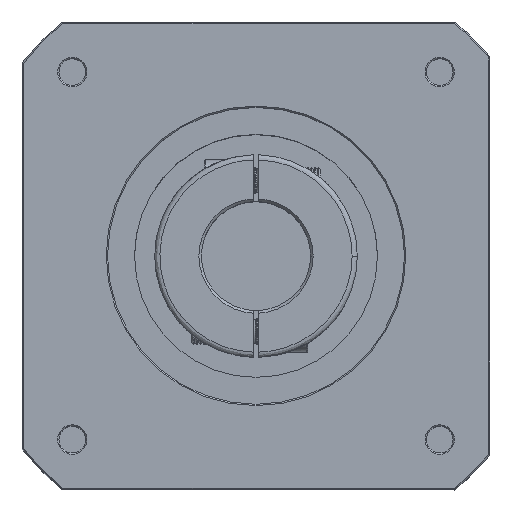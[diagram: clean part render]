
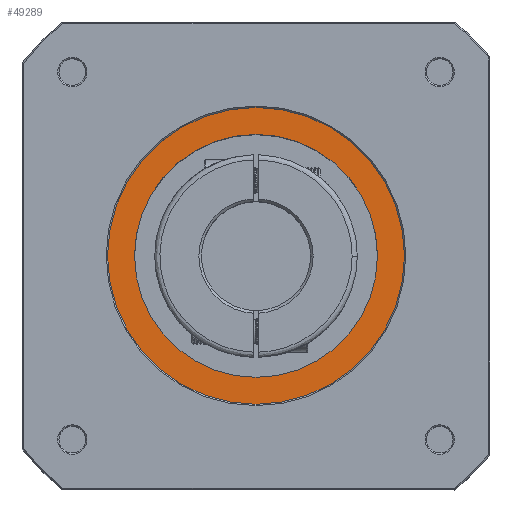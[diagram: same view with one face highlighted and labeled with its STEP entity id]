
A CAD part, top view. The second image highlights one B-rep face of the part: STEP entity #49289.
In plain terms, the highlighted planar face has unit normal (0, 0, -1).
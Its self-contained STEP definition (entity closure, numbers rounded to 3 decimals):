
#1224 = EDGE_CURVE ( 'NONE', #86010, #13366, #22128, .T. ) ;
#1969 = EDGE_CURVE ( 'NONE', #23312, #74944, #19781, .T. ) ;
#3689 = CARTESIAN_POINT ( 'NONE',  ( 0., 0., 321.5 ) ) ;
#9565 = EDGE_CURVE ( 'NONE', #13366, #86010, #38198, .T. ) ;
#10738 = DIRECTION ( 'NONE',  ( 1., 0., 0. ) ) ;
#10792 = CARTESIAN_POINT ( 'NONE',  ( 57.15, 0., 321.5 ) ) ;
#13366 = VERTEX_POINT ( 'NONE', #49047 ) ;
#14670 = CARTESIAN_POINT ( 'NONE',  ( -57.836, -57.836, 321.5 ) ) ;
#15144 = EDGE_LOOP ( 'NONE', ( #87252, #80711 ) ) ;
#16422 = EDGE_CURVE ( 'NONE', #74944, #23312, #76489, .T. ) ;
#19781 = CIRCLE ( 'NONE', #29073, 46.75 ) ;
#21759 = DIRECTION ( 'NONE',  ( 1., 0., 0. ) ) ;
#22128 = CIRCLE ( 'NONE', #62657, 57.15 ) ;
#23312 = VERTEX_POINT ( 'NONE', #55077 ) ;
#25248 = DIRECTION ( 'NONE',  ( 0., 0., 1. ) ) ;
#29073 = AXIS2_PLACEMENT_3D ( 'NONE', #67323, #25248, #74351 ) ;
#29106 = DIRECTION ( 'NONE',  ( 0., 0., -1. ) ) ;
#29269 = AXIS2_PLACEMENT_3D ( 'NONE', #14670, #63848, #21759 ) ;
#33205 = AXIS2_PLACEMENT_3D ( 'NONE', #3689, #52813, #10738 ) ;
#35094 = CARTESIAN_POINT ( 'NONE',  ( 0., 0., 321.5 ) ) ;
#36133 = ORIENTED_EDGE ( 'NONE', *, *, #9565, .T. ) ;
#36901 = FACE_BOUND ( 'NONE', #15144, .T. ) ;
#38198 = CIRCLE ( 'NONE', #33205, 57.15 ) ;
#42187 = DIRECTION ( 'NONE',  ( -1., 0., 0. ) ) ;
#43123 = EDGE_LOOP ( 'NONE', ( #45425, #36133 ) ) ;
#45425 = ORIENTED_EDGE ( 'NONE', *, *, #1224, .T. ) ;
#49047 = CARTESIAN_POINT ( 'NONE',  ( -57.15, 0., 321.5 ) ) ;
#49289 = ADVANCED_FACE ( 'NONE', ( #36901, #55621 ), #70540, .F. ) ;
#50736 = CARTESIAN_POINT ( 'NONE',  ( -46.75, 0., 321.5 ) ) ;
#52813 = DIRECTION ( 'NONE',  ( 0., 0., -1. ) ) ;
#55077 = CARTESIAN_POINT ( 'NONE',  ( 46.75, 0., 321.5 ) ) ;
#55621 = FACE_OUTER_BOUND ( 'NONE', #43123, .T. ) ;
#62657 = AXIS2_PLACEMENT_3D ( 'NONE', #71175, #29106, #78286 ) ;
#63848 = DIRECTION ( 'NONE',  ( 0., 0., 1. ) ) ;
#67323 = CARTESIAN_POINT ( 'NONE',  ( 0., 0., 321.5 ) ) ;
#70540 = PLANE ( 'NONE',  #29269 ) ;
#71175 = CARTESIAN_POINT ( 'NONE',  ( 0., 0., 321.5 ) ) ;
#72902 = AXIS2_PLACEMENT_3D ( 'NONE', #35094, #84190, #42187 ) ;
#74351 = DIRECTION ( 'NONE',  ( -1., 0., 0. ) ) ;
#74944 = VERTEX_POINT ( 'NONE', #50736 ) ;
#76489 = CIRCLE ( 'NONE', #72902, 46.75 ) ;
#78286 = DIRECTION ( 'NONE',  ( 1., 0., 0. ) ) ;
#80711 = ORIENTED_EDGE ( 'NONE', *, *, #1969, .T. ) ;
#84190 = DIRECTION ( 'NONE',  ( 0., 0., 1. ) ) ;
#86010 = VERTEX_POINT ( 'NONE', #10792 ) ;
#87252 = ORIENTED_EDGE ( 'NONE', *, *, #16422, .T. ) ;
